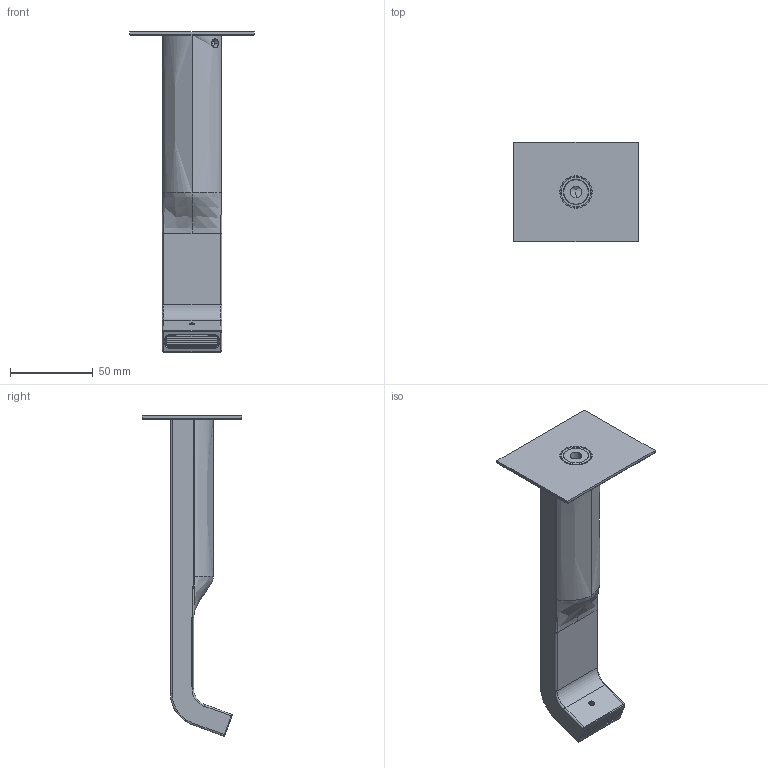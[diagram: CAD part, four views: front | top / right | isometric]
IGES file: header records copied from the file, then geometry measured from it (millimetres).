
Start section:  PTC IGES file: 83897.igs
Global section: file name: 83897.igs; native system: Creo Parametric by PTC Inc.; preprocessor: 2022014; author: carloff; organization: Unknown; date: 20260130.143501; units: millimetre
Bounding box: 75 x 60 x 193.44 mm (x, y, z)
Surface area: 63040.9 mm2 (no closed solid volume)
Topology: 0 solids, 0 shells, 1040 faces, 5104 edges, 5102 vertices
Faces by surface type: bspline 841, revolution 199
